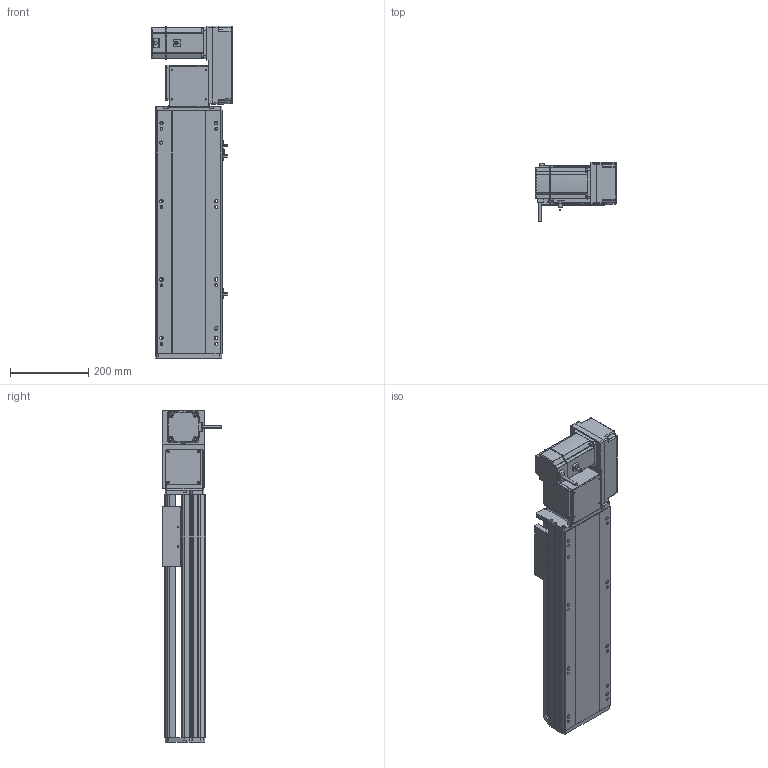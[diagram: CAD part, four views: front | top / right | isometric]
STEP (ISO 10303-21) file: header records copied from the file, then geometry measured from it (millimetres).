
FILE_DESCRIPTION (( 'STEP AP214' ), '1' );
FILE_NAME ('RTB17S-XX-350-R-M75-C4.STEP', '2025-12-12T01:30:00', ( '' ), ( '' ), 'SwSTEP 2.0', 'SolidWorks 2018', '' );
FILE_SCHEMA (( 'AUTOMOTIVE_DESIGN' ));
Length unit declared in the file: millimetre
Products named in the file (15): RTB17S-R-々湍釱蚾饜-750W^RTB17S-XX-XX-R-M75-C4; 750W萇儂^RTB17S-XX-XX-R-M75-C4; RTB17S-L-004-賑釱^RTB17S-賑釱_RTB17S-XX-XX-R-M75-C4; RTB17S-L-001-耜醱啣^RTB17S-XX-XX-R-M75-C4; RTB22S-GY-008-M75--萇儂啣^RTB17S-R-々湍釱蚾饜-750W_RTB17S-XX-XX-R-M75-C4; RTB17S-賑釱^RTB17S-XX-XX-R-M75-C4; RTH13-BL-012覜茼え俋离^RTB17S-賑釱_RTB17S-XX-XX-R-M75-C4; RTB22S-GY-018P^RTB17S-R-々湍釱蚾饜-750W_RTB17S-XX-XX-R-M75-C4; RTB17S-XX-350-R-M75-C4; RTB17S-L-007奻裔^RTB17S-XX-XX-R-M75-C4; RTB22S-GY-005P^RTB17S-R-々湍釱蚾饜-750W_RTB17S-XX-XX-R-M75-C4; RTB17-R-011菁釱^RTB17S-XX-XX-R-M75-C4; RTB17S-L-014-T20-P75--々湍釱^RTB17S-R-々湍釱蚾饜-750W_RTB17S-XX-XX-R-M75-C4; EE672^RTB17S-XX-XX-R-M75-C4; RTB22S-GY-017P^RTB17S-R-々湍釱蚾饜-750W_RTB17S-XX-XX-R-M75-C4
Assembly tree (17 placements, depth 3):
  RTB17S-XX-350-R-M75-C4
    RTB17-R-011菁釱^RTB17S-XX-XX-R-M75-C4
    EE672^RTB17S-XX-XX-R-M75-C4  x3
    RTB17S-L-001-耜醱啣^RTB17S-XX-XX-R-M75-C4
    RTB17S-賑釱^RTB17S-XX-XX-R-M75-C4
      RTB17S-L-004-賑釱^RTB17S-賑釱_RTB17S-XX-XX-R-M75-C4
      RTH13-BL-012覜茼え俋离^RTB17S-賑釱_RTB17S-XX-XX-R-M75-C4
    RTB17S-L-007奻裔^RTB17S-XX-XX-R-M75-C4
    750W萇儂^RTB17S-XX-XX-R-M75-C4
    RTB17S-R-々湍釱蚾饜-750W^RTB17S-XX-XX-R-M75-C4
      RTB17S-L-014-T20-P75--々湍釱^RTB17S-R-々湍釱蚾饜-750W_RTB17S-XX-XX-R-M75-C4
      RTB22S-GY-005P^RTB17S-R-々湍釱蚾饜-750W_RTB17S-XX-XX-R-M75-C4
      RTB22S-GY-017P^RTB17S-R-々湍釱蚾饜-750W_RTB17S-XX-XX-R-M75-C4  x2
      RTB22S-GY-008-M75--萇儂啣^RTB17S-R-々湍釱蚾饜-750W_RTB17S-XX-XX-R-M75-C4
      RTB22S-GY-018P^RTB17S-R-々湍釱蚾饜-750W_RTB17S-XX-XX-R-M75-C4
Bounding box: 207.4 x 152.7 x 849 mm (x, y, z)
Volume: 8137885.8 mm3; surface area: 1272505.1 mm2
Topology: 17 solids, 17 shells, 2041 faces, 5620 edges, 3626 vertices
Faces by surface type: plane 964, cylinder 661, bspline 294, cone 110, sphere 8, torus 4
Entity records: 55798 total; most frequent: CARTESIAN_POINT 16284, ORIENTED_EDGE 8084, DIRECTION 7592, EDGE_CURVE 4042, AXIS2_PLACEMENT_3D 2646, VERTEX_POINT 2630, VECTOR 2300, LINE 2300
